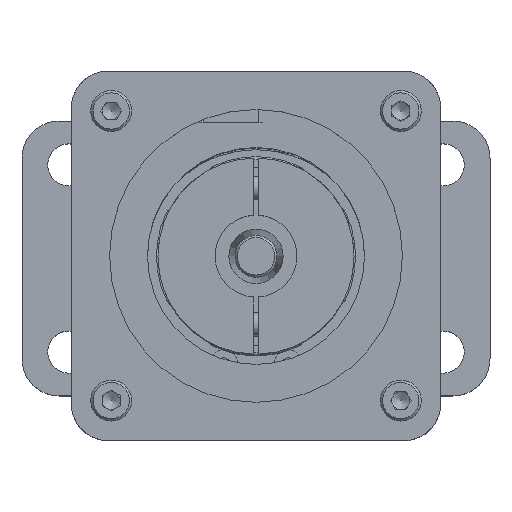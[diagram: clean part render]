
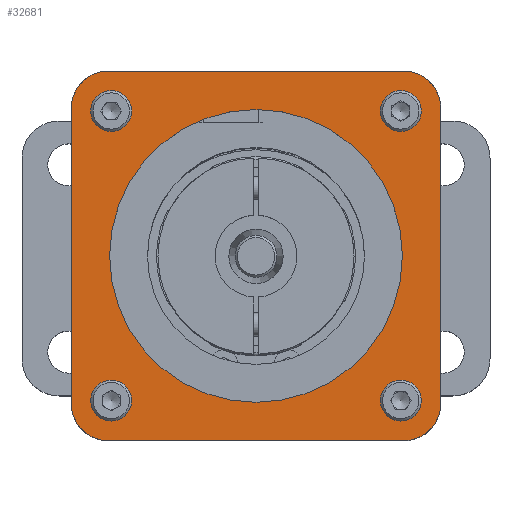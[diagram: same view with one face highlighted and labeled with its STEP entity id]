
A CAD part, top view. The second image highlights one B-rep face of the part: STEP entity #32681.
In plain terms, the highlighted planar face has unit normal (0, 0, 1).
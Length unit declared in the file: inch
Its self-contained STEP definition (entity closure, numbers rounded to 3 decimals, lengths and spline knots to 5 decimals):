
#455 = AXIS2_PLACEMENT_3D ( 'NONE', #18582, #23673, #23860 ) ;
#501 = DIRECTION ( 'NONE',  ( 0., 0., 1. ) ) ;
#1180 = ORIENTED_EDGE ( 'NONE', *, *, #19003, .T. ) ;
#1540 = VECTOR ( 'NONE', #30423, 39.37008 ) ;
#1649 = PLANE ( 'NONE',  #29543 ) ;
#1839 = FACE_BOUND ( 'NONE', #28647, .T. ) ;
#2751 = LINE ( 'NONE', #27448, #27397 ) ;
#2854 = AXIS2_PLACEMENT_3D ( 'NONE', #21618, #5516, #13626 ) ;
#3124 = AXIS2_PLACEMENT_3D ( 'NONE', #30150, #16723, #27449 ) ;
#3598 = CARTESIAN_POINT ( 'NONE',  ( 0.97436, 0.97436, 3.7111 ) ) ;
#4021 = DIRECTION ( 'NONE',  ( 0., 0., 1. ) ) ;
#4034 = ORIENTED_EDGE ( 'NONE', *, *, #26260, .F. ) ;
#4236 = DIRECTION ( 'NONE',  ( 1., 0., 0. ) ) ;
#4530 = DIRECTION ( 'NONE',  ( 1., 0., 0. ) ) ;
#4588 = CARTESIAN_POINT ( 'NONE',  ( -0.97436, 1.05311, 3.7111 ) ) ;
#4891 = EDGE_LOOP ( 'NONE', ( #12428, #16748, #10746, #13333, #1180, #13651, #7923, #19720 ) ) ;
#4904 = CARTESIAN_POINT ( 'NONE',  ( 0.98525, 0., 3.7111 ) ) ;
#5378 = CIRCLE ( 'NONE', #32027, 0.07875 ) ;
#5516 = DIRECTION ( 'NONE',  ( 0., 0., 1. ) ) ;
#5555 = CARTESIAN_POINT ( 'NONE',  ( -1.2436, 0.9936, 3.7111 ) ) ;
#5615 = VERTEX_POINT ( 'NONE', #19953 ) ;
#6214 = EDGE_CURVE ( 'NONE', #18105, #20955, #13912, .T. ) ;
#6412 = EDGE_CURVE ( 'NONE', #26543, #26543, #31746, .T. ) ;
#6580 = DIRECTION ( 'NONE',  ( 1., 0., 0. ) ) ;
#7229 = VERTEX_POINT ( 'NONE', #12373 ) ;
#7796 = AXIS2_PLACEMENT_3D ( 'NONE', #25974, #31426, #6580 ) ;
#7923 = ORIENTED_EDGE ( 'NONE', *, *, #35338, .T. ) ;
#8331 = CARTESIAN_POINT ( 'NONE',  ( -0.9936, -1.2436, 3.7111 ) ) ;
#8581 = CARTESIAN_POINT ( 'NONE',  ( 1.2436, -0.9936, 3.7111 ) ) ;
#8696 = VECTOR ( 'NONE', #10695, 39.37008 ) ;
#9339 = AXIS2_PLACEMENT_3D ( 'NONE', #3598, #501, #22303 ) ;
#9643 = CARTESIAN_POINT ( 'NONE',  ( -0.9936, -0.9936, 3.7111 ) ) ;
#9833 = CARTESIAN_POINT ( 'NONE',  ( 0.9936, 0.9936, 3.7111 ) ) ;
#9841 = FACE_BOUND ( 'NONE', #21348, .T. ) ;
#10033 = FACE_OUTER_BOUND ( 'NONE', #4891, .T. ) ;
#10475 = EDGE_LOOP ( 'NONE', ( #34313 ) ) ;
#10695 = DIRECTION ( 'NONE',  ( 1., 0., 0. ) ) ;
#10746 = ORIENTED_EDGE ( 'NONE', *, *, #6214, .T. ) ;
#11042 = CARTESIAN_POINT ( 'NONE',  ( -0.97436, -0.97436, 3.7111 ) ) ;
#11345 = VERTEX_POINT ( 'NONE', #8581 ) ;
#11418 = ORIENTED_EDGE ( 'NONE', *, *, #18431, .F. ) ;
#11423 = EDGE_CURVE ( 'NONE', #7229, #24203, #17108, .T. ) ;
#11489 = DIRECTION ( 'NONE',  ( -1., 0., 0. ) ) ;
#11876 = CARTESIAN_POINT ( 'NONE',  ( -0.9936, 1.2436, 3.7111 ) ) ;
#12373 = CARTESIAN_POINT ( 'NONE',  ( 0.9936, 1.2436, 3.7111 ) ) ;
#12428 = ORIENTED_EDGE ( 'NONE', *, *, #11423, .T. ) ;
#12747 = CARTESIAN_POINT ( 'NONE',  ( -1.77594, 1.6875, 3.7111 ) ) ;
#13333 = ORIENTED_EDGE ( 'NONE', *, *, #25485, .T. ) ;
#13626 = DIRECTION ( 'NONE',  ( 1., 0., 0. ) ) ;
#13651 = ORIENTED_EDGE ( 'NONE', *, *, #26396, .T. ) ;
#13753 = LINE ( 'NONE', #8331, #8696 ) ;
#13912 = LINE ( 'NONE', #5555, #1540 ) ;
#14034 = EDGE_LOOP ( 'NONE', ( #15614 ) ) ;
#14067 = DIRECTION ( 'NONE',  ( 0., 0., 1. ) ) ;
#14482 = DIRECTION ( 'NONE',  ( -1., 0., 0. ) ) ;
#14973 = CARTESIAN_POINT ( 'NONE',  ( -1.2436, -0.9936, 3.7111 ) ) ;
#15350 = ORIENTED_EDGE ( 'NONE', *, *, #6412, .F. ) ;
#15459 = FACE_BOUND ( 'NONE', #14034, .T. ) ;
#15614 = ORIENTED_EDGE ( 'NONE', *, *, #33489, .F. ) ;
#15805 = AXIS2_PLACEMENT_3D ( 'NONE', #33626, #14067, #4236 ) ;
#16723 = DIRECTION ( 'NONE',  ( 0., 0., 1. ) ) ;
#16748 = ORIENTED_EDGE ( 'NONE', *, *, #35091, .T. ) ;
#16834 = CARTESIAN_POINT ( 'NONE',  ( -0.9936, 1.2436, 3.7111 ) ) ;
#16849 = CIRCLE ( 'NONE', #9339, 0.07875 ) ;
#16977 = CARTESIAN_POINT ( 'NONE',  ( 1.2436, 0.9936, 3.7111 ) ) ;
#17108 = LINE ( 'NONE', #11876, #24234 ) ;
#17908 = CIRCLE ( 'NONE', #27190, 0.25 ) ;
#17992 = DIRECTION ( 'NONE',  ( 1., 0., 0. ) ) ;
#18105 = VERTEX_POINT ( 'NONE', #28747 ) ;
#18431 = EDGE_CURVE ( 'NONE', #35579, #35579, #21396, .T. ) ;
#18582 = CARTESIAN_POINT ( 'NONE',  ( -0.97436, 0.97436, 3.7111 ) ) ;
#19003 = EDGE_CURVE ( 'NONE', #30541, #22760, #13753, .T. ) ;
#19512 = VERTEX_POINT ( 'NONE', #16977 ) ;
#19720 = ORIENTED_EDGE ( 'NONE', *, *, #31705, .T. ) ;
#19953 = CARTESIAN_POINT ( 'NONE',  ( -1.05311, -0.97436, 3.7111 ) ) ;
#20661 = CARTESIAN_POINT ( 'NONE',  ( 0.97436, -1.05311, 3.7111 ) ) ;
#20716 = FACE_BOUND ( 'NONE', #34251, .T. ) ;
#20955 = VERTEX_POINT ( 'NONE', #14973 ) ;
#21348 = EDGE_LOOP ( 'NONE', ( #11418 ) ) ;
#21396 = CIRCLE ( 'NONE', #2854, 0.98525 ) ;
#21618 = CARTESIAN_POINT ( 'NONE',  ( 0., 0., 3.7111 ) ) ;
#22303 = DIRECTION ( 'NONE',  ( 1., 0., 0. ) ) ;
#22760 = VERTEX_POINT ( 'NONE', #26884 ) ;
#23445 = DIRECTION ( 'NONE',  ( 1., 0., 0. ) ) ;
#23673 = DIRECTION ( 'NONE',  ( 0., 0., 1. ) ) ;
#23860 = DIRECTION ( 'NONE',  ( 0., 1., 0. ) ) ;
#23979 = CIRCLE ( 'NONE', #30922, 0.25 ) ;
#24174 = EDGE_CURVE ( 'NONE', #5615, #5615, #5378, .T. ) ;
#24203 = VERTEX_POINT ( 'NONE', #16834 ) ;
#24234 = VECTOR ( 'NONE', #11489, 39.37008 ) ;
#24805 = VERTEX_POINT ( 'NONE', #35878 ) ;
#25163 = CIRCLE ( 'NONE', #7796, 0.25 ) ;
#25485 = EDGE_CURVE ( 'NONE', #20955, #30541, #23979, .T. ) ;
#25974 = CARTESIAN_POINT ( 'NONE',  ( 0.9936, -0.9936, 3.7111 ) ) ;
#26260 = EDGE_CURVE ( 'NONE', #26461, #26461, #31517, .T. ) ;
#26396 = EDGE_CURVE ( 'NONE', #22760, #11345, #25163, .T. ) ;
#26461 = VERTEX_POINT ( 'NONE', #20661 ) ;
#26543 = VERTEX_POINT ( 'NONE', #4588 ) ;
#26706 = FACE_BOUND ( 'NONE', #10475, .T. ) ;
#26884 = CARTESIAN_POINT ( 'NONE',  ( 0.9936, -1.2436, 3.7111 ) ) ;
#27190 = AXIS2_PLACEMENT_3D ( 'NONE', #9833, #4021, #17992 ) ;
#27397 = VECTOR ( 'NONE', #32509, 39.37008 ) ;
#27448 = CARTESIAN_POINT ( 'NONE',  ( 1.2436, 0.9936, 3.7111 ) ) ;
#27449 = DIRECTION ( 'NONE',  ( 0., -1., 0. ) ) ;
#28252 = DIRECTION ( 'NONE',  ( 0., 0., 1. ) ) ;
#28647 = EDGE_LOOP ( 'NONE', ( #15350 ) ) ;
#28747 = CARTESIAN_POINT ( 'NONE',  ( -1.2436, 0.9936, 3.7111 ) ) ;
#29543 = AXIS2_PLACEMENT_3D ( 'NONE', #12747, #31782, #23445 ) ;
#30150 = CARTESIAN_POINT ( 'NONE',  ( 0.97436, -0.97436, 3.7111 ) ) ;
#30423 = DIRECTION ( 'NONE',  ( 0., -1., 0. ) ) ;
#30541 = VERTEX_POINT ( 'NONE', #33919 ) ;
#30922 = AXIS2_PLACEMENT_3D ( 'NONE', #9643, #35024, #4530 ) ;
#31426 = DIRECTION ( 'NONE',  ( 0., 0., 1. ) ) ;
#31448 = CIRCLE ( 'NONE', #15805, 0.25 ) ;
#31517 = CIRCLE ( 'NONE', #3124, 0.07875 ) ;
#31705 = EDGE_CURVE ( 'NONE', #19512, #7229, #17908, .T. ) ;
#31746 = CIRCLE ( 'NONE', #455, 0.07875 ) ;
#31782 = DIRECTION ( 'NONE',  ( 0., 0., 1. ) ) ;
#32027 = AXIS2_PLACEMENT_3D ( 'NONE', #11042, #28252, #14482 ) ;
#32509 = DIRECTION ( 'NONE',  ( 0., 1., 0. ) ) ;
#32681 = ADVANCED_FACE ( 'NONE', ( #20716, #26706, #1839, #15459, #9841, #10033 ), #1649, .T. ) ;
#33489 = EDGE_CURVE ( 'NONE', #24805, #24805, #16849, .T. ) ;
#33626 = CARTESIAN_POINT ( 'NONE',  ( -0.9936, 0.9936, 3.7111 ) ) ;
#33919 = CARTESIAN_POINT ( 'NONE',  ( -0.9936, -1.2436, 3.7111 ) ) ;
#34251 = EDGE_LOOP ( 'NONE', ( #4034 ) ) ;
#34313 = ORIENTED_EDGE ( 'NONE', *, *, #24174, .F. ) ;
#35024 = DIRECTION ( 'NONE',  ( 0., 0., 1. ) ) ;
#35091 = EDGE_CURVE ( 'NONE', #24203, #18105, #31448, .T. ) ;
#35338 = EDGE_CURVE ( 'NONE', #11345, #19512, #2751, .T. ) ;
#35579 = VERTEX_POINT ( 'NONE', #4904 ) ;
#35878 = CARTESIAN_POINT ( 'NONE',  ( 1.05311, 0.97436, 3.7111 ) ) ;
